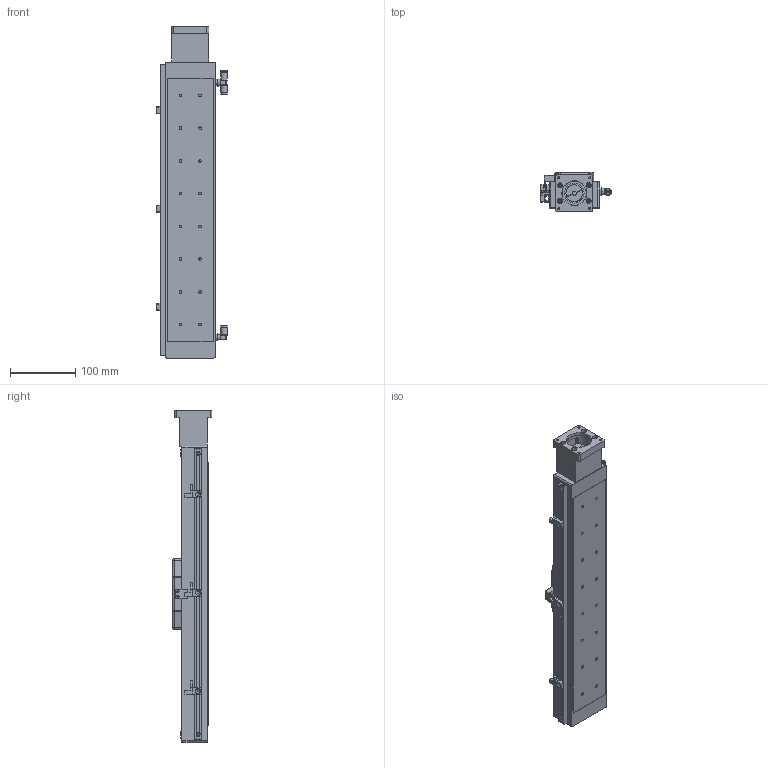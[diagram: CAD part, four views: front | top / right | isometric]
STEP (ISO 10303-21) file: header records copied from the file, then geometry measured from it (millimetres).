
FILE_DESCRIPTION((''),'2;1');
FILE_NAME('E:\catalogue and flyer\actuator catalogue 2015\dwg fr wg\UIA076CR9DC\UIA076CR9DC-stp file 05May16\UIA076CR9DC-300-R12_ _-M23-P13-C10-S.stp','2016-05-05T13:11:59',('h029'),(''),'Autodesk Inventor 11','Autodesk Inventor 11','');
FILE_SCHEMA(('AUTOMOTIVE_DESIGN { 1 0 10303 214 1 1 1 1 }'));
Length unit declared in the file: millimetre
Products named in the file (14): UIA076CR9DC-300; UIA076CR9DC-body; carriage-076CR; SOH25C; side 2; side 1; centre piece; 26-100 0071 sensor flag; GWL4-M5; GWT4-M5; 26-100 0110-M23; Sensor rail; Sensor Bracket ; Sensor
Assembly tree (17 placements, depth 3):
  UIA076CR9DC-300
    UIA076CR9DC-body
    carriage-076CR
    SOH25C
      side 2
      side 1
      centre piece
    26-100 0071 sensor flag
    GWL4-M5
    GWT4-M5
    26-100 0110-M23
    Sensor rail
    Sensor Bracket   x3
    Sensor  x3
Bounding box: 108.1 x 61 x 507 mm (x, y, z)
Volume: 1567507 mm3; surface area: 210178 mm2
Topology: 18 solids, 18 shells, 689 faces, 1782 edges, 1151 vertices
Faces by surface type: plane 355, bspline 156, cylinder 152, sphere 16, cone 10
Full cylindrical faces by diameter (mm): 2.459 x4, 2.5 x3, 8 x2, 25.5 x3, 30 x1, 37 x1, 38.1 x1
Entity records: 19525 total; most frequent: CARTESIAN_POINT 5631, DIRECTION 2765, ORIENTED_EDGE 2674, EDGE_CURVE 1337, AXIS2_PLACEMENT_3D 978, VERTEX_POINT 921, EDGE_LOOP 814, VECTOR 809
